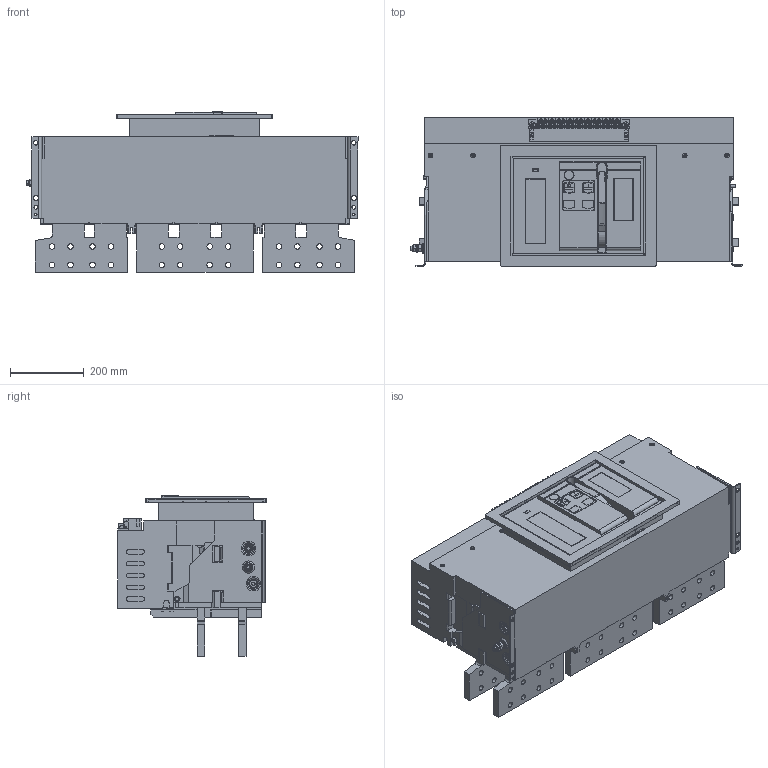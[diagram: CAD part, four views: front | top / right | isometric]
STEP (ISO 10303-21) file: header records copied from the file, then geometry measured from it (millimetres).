
FILE_DESCRIPTION (( 'STEP AP214' ), '1' );
FILE_NAME ('TGW1N-6300 F 3P 4000A.STEP', '2026-04-28T08:52:09', ( '' ), ( '' ), 'SwSTEP 2.0', 'SolidWorks 2024', '' );
FILE_SCHEMA (( 'AUTOMOTIVE_DESIGN' ));
Length unit declared in the file: millimetre
Products named in the file (6): 8TZD_087_6007.stp; TENGEN_Рамка_3200-6300_Fixed.stp; 8TZD_156_6063.stp; TENGEN_Рамка_3200-6300_Fixed; TENGEN_TGW1N-6300_3P_4000A_F; TGW1N-6300 F 3P 4000A
Assembly tree (5 placements, depth 4):
  TGW1N-6300 F 3P 4000A
    TENGEN_TGW1N-6300_3P_4000A_F
    TENGEN_Рамка_3200-6300_Fixed
      TENGEN_Рамка_3200-6300_Fixed.stp
        8TZD_087_6007.stp
        8TZD_156_6063.stp
Bounding box: 901.06 x 402.63 x 435.8 mm (x, y, z)
Volume: 84670967.1 mm3; surface area: 2333049.7 mm2
Topology: 3 solids, 5 shells, 3537 faces, 9568 edges, 6178 vertices
Faces by surface type: plane 2490, cylinder 805, bspline 120, sphere 60, cone 34, torus 28
Entity records: 122599 total; most frequent: CARTESIAN_POINT 35952, ORIENTED_EDGE 18940, DIRECTION 16480, EDGE_CURVE 9470, VERTEX_POINT 6178, VECTOR 6092, LINE 6092, AXIS2_PLACEMENT_3D 5194
